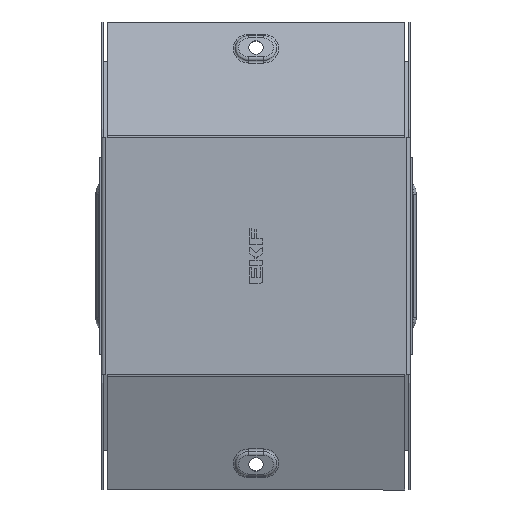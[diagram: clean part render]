
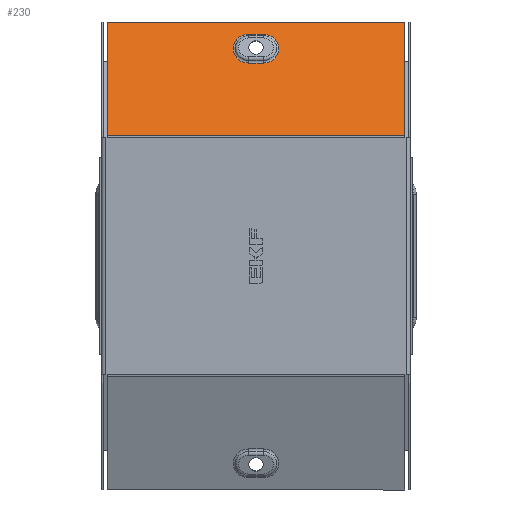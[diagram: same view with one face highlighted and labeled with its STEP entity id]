
A CAD part, front view. The second image highlights one B-rep face of the part: STEP entity #230.
In plain terms, the highlighted planar face has unit normal (0, -0.924, 0.383).
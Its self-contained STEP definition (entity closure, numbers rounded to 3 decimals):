
#4 = CARTESIAN_POINT ( 'NONE',  ( -3.5, -36.07, 93.687 ) ) ;
#17 = CARTESIAN_POINT ( 'NONE',  ( -72.299, -27.805, 113.641 ) ) ;
#230 = ADVANCED_FACE ( 'NONE', ( #10192, #6150 ), #7020, .F. ) ;
#605 = ORIENTED_EDGE ( 'NONE', *, *, #1755, .T. ) ;
#614 = EDGE_CURVE ( 'NONE', #5545, #5370, #7726, .T. ) ;
#697 = VERTEX_POINT ( 'NONE', #857 ) ;
#857 = CARTESIAN_POINT ( 'NONE',  ( 3.5, -36.07, 93.687 ) ) ;
#903 = CARTESIAN_POINT ( 'NONE',  ( -3.5, -33.162, 100.707 ) ) ;
#1053 = CARTESIAN_POINT ( 'NONE',  ( -72.299, -50.8, 58.125 ) ) ;
#1091 = AXIS2_PLACEMENT_3D ( 'NONE', #903, #10029, #12181 ) ;
#1194 = VERTEX_POINT ( 'NONE', #4094 ) ;
#1333 = ORIENTED_EDGE ( 'NONE', *, *, #614, .T. ) ;
#1587 = CARTESIAN_POINT ( 'NONE',  ( 3.5, -33.162, 100.707 ) ) ;
#1755 = EDGE_CURVE ( 'NONE', #1194, #6097, #1785, .T. ) ;
#1785 = LINE ( 'NONE', #6243, #1962 ) ;
#1962 = VECTOR ( 'NONE', #5223, 1000. ) ;
#2154 = DIRECTION ( 'NONE',  ( 0., 0.383, 0.924 ) ) ;
#2356 = CIRCLE ( 'NONE', #4793, 7.598 ) ;
#2360 = DIRECTION ( 'NONE',  ( 0., 0.383, 0.924 ) ) ;
#2395 = CARTESIAN_POINT ( 'NONE',  ( 3.5, -30.254, 107.726 ) ) ;
#2466 = ORIENTED_EDGE ( 'NONE', *, *, #6237, .T. ) ;
#2629 = VERTEX_POINT ( 'NONE', #8890 ) ;
#2632 = DIRECTION ( 'NONE',  ( 0., 0.383, 0.924 ) ) ;
#3011 = DIRECTION ( 'NONE',  ( -1., 0., 0. ) ) ;
#3549 = ORIENTED_EDGE ( 'NONE', *, *, #10323, .T. ) ;
#3815 = AXIS2_PLACEMENT_3D ( 'NONE', #10017, #12360, #2154 ) ;
#4094 = CARTESIAN_POINT ( 'NONE',  ( -3.5, -30.254, 107.726 ) ) ;
#4453 = VECTOR ( 'NONE', #2360, 1000. ) ;
#4793 = AXIS2_PLACEMENT_3D ( 'NONE', #1587, #8769, #2632 ) ;
#5090 = EDGE_CURVE ( 'NONE', #7276, #2629, #11061, .T. ) ;
#5172 = DIRECTION ( 'NONE',  ( -1., 0., 0. ) ) ;
#5223 = DIRECTION ( 'NONE',  ( 1., 0., 0. ) ) ;
#5300 = CARTESIAN_POINT ( 'NONE',  ( 72.299, -50.663, 58.456 ) ) ;
#5370 = VERTEX_POINT ( 'NONE', #17 ) ;
#5489 = EDGE_CURVE ( 'NONE', #7276, #5545, #13054, .T. ) ;
#5545 = VERTEX_POINT ( 'NONE', #11722 ) ;
#5551 = LINE ( 'NONE', #9195, #12028 ) ;
#5680 = ORIENTED_EDGE ( 'NONE', *, *, #5489, .T. ) ;
#5712 = EDGE_CURVE ( 'NONE', #6097, #697, #2356, .T. ) ;
#6032 = VERTEX_POINT ( 'NONE', #4 ) ;
#6097 = VERTEX_POINT ( 'NONE', #2395 ) ;
#6150 = FACE_OUTER_BOUND ( 'NONE', #8998, .T. ) ;
#6237 = EDGE_CURVE ( 'NONE', #6032, #1194, #6644, .T. ) ;
#6243 = CARTESIAN_POINT ( 'NONE',  ( 3.5, -30.254, 107.726 ) ) ;
#6644 = CIRCLE ( 'NONE', #1091, 7.598 ) ;
#6850 = VECTOR ( 'NONE', #5172, 1000. ) ;
#6863 = EDGE_CURVE ( 'NONE', #5370, #2629, #8914, .T. ) ;
#7020 = PLANE ( 'NONE',  #3815 ) ;
#7245 = ORIENTED_EDGE ( 'NONE', *, *, #5090, .F. ) ;
#7266 = VECTOR ( 'NONE', #11854, 1000. ) ;
#7276 = VERTEX_POINT ( 'NONE', #5300 ) ;
#7411 = EDGE_LOOP ( 'NONE', ( #605, #8949, #3549, #2466 ) ) ;
#7726 = LINE ( 'NONE', #10870, #7266 ) ;
#8769 = DIRECTION ( 'NONE',  ( 0., 0.924, -0.383 ) ) ;
#8890 = CARTESIAN_POINT ( 'NONE',  ( -72.299, -50.663, 58.456 ) ) ;
#8914 = LINE ( 'NONE', #1053, #11663 ) ;
#8949 = ORIENTED_EDGE ( 'NONE', *, *, #5712, .T. ) ;
#8998 = EDGE_LOOP ( 'NONE', ( #10538, #7245, #5680, #1333 ) ) ;
#9195 = CARTESIAN_POINT ( 'NONE',  ( 3.5, -36.07, 93.687 ) ) ;
#9578 = DIRECTION ( 'NONE',  ( 0., -0.383, -0.924 ) ) ;
#10017 = CARTESIAN_POINT ( 'NONE',  ( 73.2, -50.8, 58.125 ) ) ;
#10029 = DIRECTION ( 'NONE',  ( 0., 0.924, -0.383 ) ) ;
#10192 = FACE_BOUND ( 'NONE', #7411, .T. ) ;
#10323 = EDGE_CURVE ( 'NONE', #697, #6032, #5551, .T. ) ;
#10538 = ORIENTED_EDGE ( 'NONE', *, *, #6863, .T. ) ;
#10870 = CARTESIAN_POINT ( 'NONE',  ( 73.2, -27.805, 113.641 ) ) ;
#11061 = LINE ( 'NONE', #13335, #6850 ) ;
#11450 = CARTESIAN_POINT ( 'NONE',  ( 72.299, -50.864, 57.971 ) ) ;
#11663 = VECTOR ( 'NONE', #9578, 1000. ) ;
#11722 = CARTESIAN_POINT ( 'NONE',  ( 72.299, -27.805, 113.641 ) ) ;
#11854 = DIRECTION ( 'NONE',  ( -1., 0., 0. ) ) ;
#12028 = VECTOR ( 'NONE', #3011, 1000. ) ;
#12181 = DIRECTION ( 'NONE',  ( 0., 0.383, 0.924 ) ) ;
#12360 = DIRECTION ( 'NONE',  ( 0., 0.924, -0.383 ) ) ;
#13054 = LINE ( 'NONE', #11450, #4453 ) ;
#13335 = CARTESIAN_POINT ( 'NONE',  ( 73.2, -50.663, 58.456 ) ) ;
